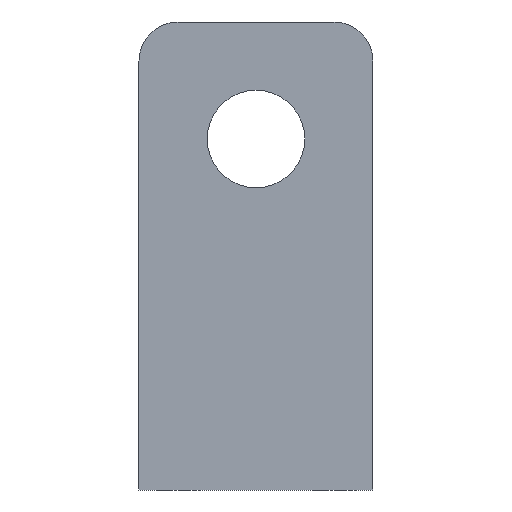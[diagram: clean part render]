
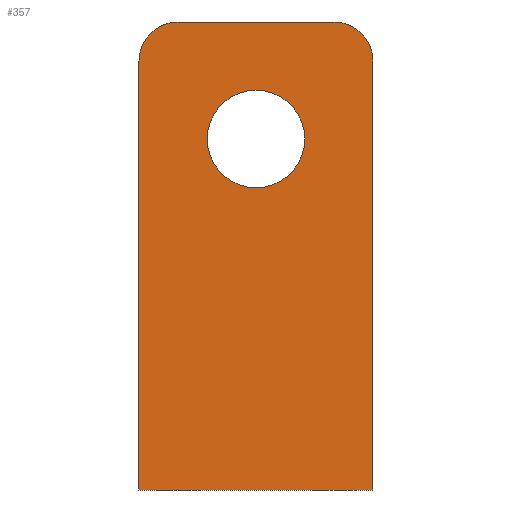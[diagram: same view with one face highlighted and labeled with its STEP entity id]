
A CAD part, left-side view. The second image highlights one B-rep face of the part: STEP entity #357.
In plain terms, the highlighted planar face has unit normal (-1, 0, 0).
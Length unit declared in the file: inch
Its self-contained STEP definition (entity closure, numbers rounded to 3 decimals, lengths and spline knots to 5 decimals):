
#14 = EDGE_CURVE ( 'NONE', #686, #524, #218, .T. ) ;
#15 = DIRECTION ( 'NONE',  ( -1., 0., 0. ) ) ;
#16 = AXIS2_PLACEMENT_3D ( 'NONE', #546, #169, #491 ) ;
#31 = AXIS2_PLACEMENT_3D ( 'NONE', #384, #15, #326 ) ;
#38 = DIRECTION ( 'NONE',  ( 0., 0., 1. ) ) ;
#61 = VERTEX_POINT ( 'NONE', #270 ) ;
#78 = VECTOR ( 'NONE', #458, 39.37008 ) ;
#82 = CARTESIAN_POINT ( 'NONE',  ( 0., 0.34896, 2.15625 ) ) ;
#94 = CARTESIAN_POINT ( 'NONE',  ( 0., -0.15104, 2.65625 ) ) ;
#111 = AXIS2_PLACEMENT_3D ( 'NONE', #94, #408, #194 ) ;
#120 = VERTEX_POINT ( 'NONE', #355 ) ;
#145 = VECTOR ( 'NONE', #656, 39.37008 ) ;
#158 = FACE_BOUND ( 'NONE', #560, .T. ) ;
#169 = DIRECTION ( 'NONE',  ( -1., 0., 0. ) ) ;
#170 = EDGE_CURVE ( 'NONE', #61, #524, #638, .T. ) ;
#189 = CARTESIAN_POINT ( 'NONE',  ( 0., 0.34896, 1.84375 ) ) ;
#194 = DIRECTION ( 'NONE',  ( 0., 0., -1. ) ) ;
#205 = ORIENTED_EDGE ( 'NONE', *, *, #170, .F. ) ;
#209 = LINE ( 'NONE', #398, #78 ) ;
#218 = CIRCLE ( 'NONE', #31, 0.25 ) ;
#227 = VECTOR ( 'NONE', #416, 39.37008 ) ;
#257 = PLANE ( 'NONE',  #413 ) ;
#260 = VERTEX_POINT ( 'NONE', #287 ) ;
#267 = EDGE_CURVE ( 'NONE', #268, #120, #313, .T. ) ;
#268 = VERTEX_POINT ( 'NONE', #189 ) ;
#270 = CARTESIAN_POINT ( 'NONE',  ( 0., 1.09896, -0.09375 ) ) ;
#287 = CARTESIAN_POINT ( 'NONE',  ( 0., -0.40104, 2.65625 ) ) ;
#297 = VERTEX_POINT ( 'NONE', #388 ) ;
#309 = EDGE_CURVE ( 'NONE', #366, #61, #532, .T. ) ;
#311 = FACE_OUTER_BOUND ( 'NONE', #561, .T. ) ;
#313 = CIRCLE ( 'NONE', #16, 0.3125 ) ;
#315 = ORIENTED_EDGE ( 'NONE', *, *, #267, .F. ) ;
#326 = DIRECTION ( 'NONE',  ( 0., 0., -1. ) ) ;
#355 = CARTESIAN_POINT ( 'NONE',  ( 0., 0.34896, 2.46875 ) ) ;
#357 = ADVANCED_FACE ( 'NONE', ( #158, #311 ), #257, .F. ) ;
#358 = CARTESIAN_POINT ( 'NONE',  ( 0., -0.40104, -0.09375 ) ) ;
#366 = VERTEX_POINT ( 'NONE', #358 ) ;
#372 = CIRCLE ( 'NONE', #111, 0.25 ) ;
#384 = CARTESIAN_POINT ( 'NONE',  ( 0., 0.84896, 2.65625 ) ) ;
#388 = CARTESIAN_POINT ( 'NONE',  ( 0., -0.15104, 2.90625 ) ) ;
#398 = CARTESIAN_POINT ( 'NONE',  ( 0., -0.40104, 0.28125 ) ) ;
#400 = DIRECTION ( 'NONE',  ( -1., 0., 0. ) ) ;
#408 = DIRECTION ( 'NONE',  ( -1., 0., 0. ) ) ;
#413 = AXIS2_PLACEMENT_3D ( 'NONE', #568, #689, #415 ) ;
#415 = DIRECTION ( 'NONE',  ( 0., 0., -1. ) ) ;
#416 = DIRECTION ( 'NONE',  ( 0., -1., 0. ) ) ;
#438 = ORIENTED_EDGE ( 'NONE', *, *, #14, .T. ) ;
#458 = DIRECTION ( 'NONE',  ( 0., 0., -1. ) ) ;
#466 = CARTESIAN_POINT ( 'NONE',  ( 0., 0.84896, 2.90625 ) ) ;
#486 = ORIENTED_EDGE ( 'NONE', *, *, #594, .F. ) ;
#491 = DIRECTION ( 'NONE',  ( 0., 0., 1. ) ) ;
#497 = EDGE_CURVE ( 'NONE', #120, #268, #572, .T. ) ;
#506 = ORIENTED_EDGE ( 'NONE', *, *, #497, .F. ) ;
#512 = CARTESIAN_POINT ( 'NONE',  ( 0., 1.09896, -0.09375 ) ) ;
#517 = LINE ( 'NONE', #612, #227 ) ;
#524 = VERTEX_POINT ( 'NONE', #553 ) ;
#532 = LINE ( 'NONE', #512, #604 ) ;
#546 = CARTESIAN_POINT ( 'NONE',  ( 0., 0.34896, 2.15625 ) ) ;
#553 = CARTESIAN_POINT ( 'NONE',  ( 0., 1.09896, 2.65625 ) ) ;
#560 = EDGE_LOOP ( 'NONE', ( #506, #315 ) ) ;
#561 = EDGE_LOOP ( 'NONE', ( #591, #674, #486, #438, #205, #670 ) ) ;
#568 = CARTESIAN_POINT ( 'NONE',  ( 0., 0., 0. ) ) ;
#572 = CIRCLE ( 'NONE', #660, 0.3125 ) ;
#591 = ORIENTED_EDGE ( 'NONE', *, *, #621, .F. ) ;
#594 = EDGE_CURVE ( 'NONE', #686, #297, #517, .T. ) ;
#602 = DIRECTION ( 'NONE',  ( 0., 1., 0. ) ) ;
#604 = VECTOR ( 'NONE', #602, 39.37008 ) ;
#606 = EDGE_CURVE ( 'NONE', #260, #297, #372, .T. ) ;
#611 = CARTESIAN_POINT ( 'NONE',  ( 0., 1.09896, 0.28125 ) ) ;
#612 = CARTESIAN_POINT ( 'NONE',  ( 0., 1.09896, 2.90625 ) ) ;
#621 = EDGE_CURVE ( 'NONE', #260, #366, #209, .T. ) ;
#638 = LINE ( 'NONE', #611, #145 ) ;
#656 = DIRECTION ( 'NONE',  ( 0., 0., 1. ) ) ;
#660 = AXIS2_PLACEMENT_3D ( 'NONE', #82, #400, #38 ) ;
#670 = ORIENTED_EDGE ( 'NONE', *, *, #309, .F. ) ;
#674 = ORIENTED_EDGE ( 'NONE', *, *, #606, .T. ) ;
#686 = VERTEX_POINT ( 'NONE', #466 ) ;
#689 = DIRECTION ( 'NONE',  ( 1., 0., 0. ) ) ;
